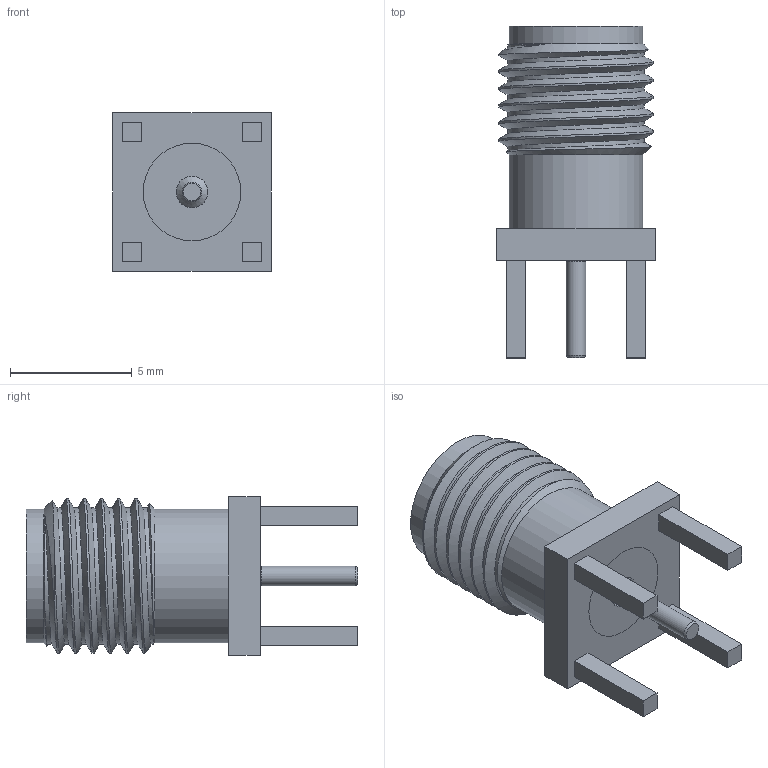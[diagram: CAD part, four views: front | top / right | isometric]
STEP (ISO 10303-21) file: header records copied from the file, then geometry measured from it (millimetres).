
FILE_DESCRIPTION(('HOOPS Exchange Step'),'2;1');
FILE_NAME('C:\Users\30abd\AppData\Local\Packages\Shapr3D.Shapr3D_j403pzjkqtqbj\TempState\export\temp_export','2023-05-27T06:23:15-07:00',('30abd'),('Shapr3D Limited'),'HOOPS Exchange 2022.2','Shapr3D','Authorized');
FILE_SCHEMA( ('AUTOMOTIVE_DESIGN { 1 0 10303 214 1 1 1 1 }') );
Length unit declared in the file: millimetre
Products named in the file (2): SMA CONNECTOR--3DModel-STEP-1.STEP; root
Assembly tree (1 placements, depth 2):
  root
    SMA CONNECTOR--3DModel-STEP-1.STEP
Bounding box: 6.5 x 13.6 x 6.5 mm (x, y, z)
Volume: 261.7 mm3; surface area: 676.7 mm2
Topology: 3 solids, 3 shells, 57 faces, 131 edges, 87 vertices
Faces by surface type: plane 33, cylinder 15, cone 6, bspline 3
Full cylindrical faces by diameter (mm): 0.8 x1, 1.3 x2, 4 x2, 4.597 x1, 5.486 x2, 6.35 x5
Entity records: 13253 total; most frequent: CARTESIAN_POINT 11927, ORIENTED_EDGE 262, DIRECTION 246, EDGE_CURVE 131, VERTEX_POINT 87, AXIS2_PLACEMENT_3D 83, VECTOR 80, LINE 80
